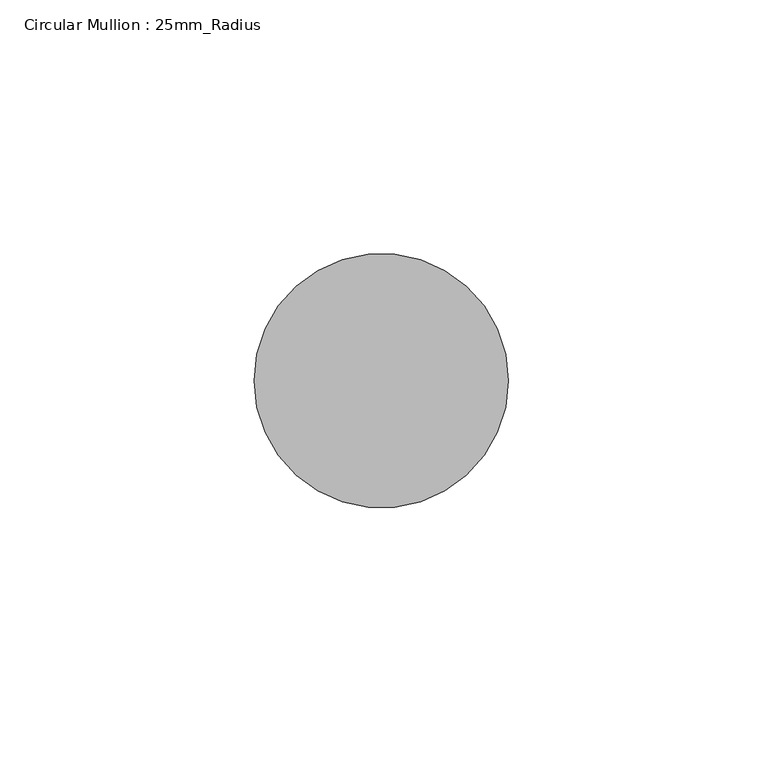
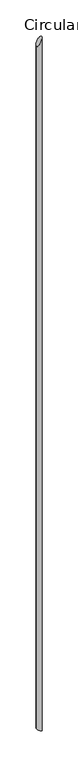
"""IFC4 building model written with IfcOpenShell, lengths in millimetres: member geometry, Circular Mullion : 25mm_Radius."""

from ifc_helpers import new_model, si_unit, frame, origin, place, context, project, spatial, ellipse_curve, source, transform, mapped, element, save
from ifc_brep_helpers import plane_surface, cylinder_surface, advanced_brep


def circular_mullion_25mm_radius_02c927fd(model_context):
    return source(origin(), model_context, "Body", "AdvancedBrep", [
        advanced_brep(
        [(-50.0, 0.0, -82.5554163), (0.0, 0.0, 0.0), (0.0, 0.0, -6824.1270927), (-50.0, 0.0, -6794.0260027)],
        [
            (0, 1, ellipse_curve(frame((-25.0, 0.0, -41.2777082), z_axis=(0.8553520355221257, 0.0, -0.5180471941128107), x_axis=(0.5180471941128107, 0.0, 0.8553520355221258)), 48.2581515, 25.0)),
            (1, 2),
            (2, 3, ellipse_curve(frame((-25.0, 0.0, -6809.0765477), z_axis=(0.5157688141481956, 0.0, 0.8567278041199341), x_axis=(-0.8567278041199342, 0.0, 0.5157688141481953)), 29.1807968, 25.0)),
            (3, 0),
            (1, 0, ellipse_curve(frame((-25.0, 0.0, -41.2777082), z_axis=(0.8553520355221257, 0.0, -0.5180471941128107), x_axis=(0.5180471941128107, 0.0, 0.8553520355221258)), 48.2581515, 25.0)),
            (3, 2, ellipse_curve(frame((-25.0, 0.0, -6809.0765477), z_axis=(0.5157688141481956, 0.0, 0.8567278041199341), x_axis=(-0.8567278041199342, 0.0, 0.5157688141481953)), 29.1807968, 25.0)),
        ],
        [
            cylinder_surface(frame((-25.0, 0.0, 0.0), z_axis=(0.0, 0.0, 1.0), x_axis=(1.0, 0.0, 0.0)), 25.0),
            plane_surface(frame((0.0, -304.8, 0.0), z_axis=(-0.8553520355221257, 0.0, 0.5180471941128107), x_axis=(-0.5180471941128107, 0.0, -0.8553520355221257))),
            plane_surface(frame((0.0, -304.8, -6824.1270927), z_axis=(-0.5157688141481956, 0.0, -0.8567278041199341), x_axis=(-0.8567278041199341, 0.0, 0.5157688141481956))),
        ],
        [
            (0, [[1, 2, 3, 4]]),
            (0, [[5, -4, 6, -2]]),
            (1, [[-1, -5]]),
            (2, [[-6, -3]]),
        ],
    ),
    ])


if __name__ == "__main__":
    model = new_model("IFC4")
    model_context = context("Model", 3, world=origin())
    ifc_project = project(units=[si_unit("LENGTHUNIT", "METRE", prefix="MILLI")], contexts=[model_context])
    site = spatial("IfcSite", under=ifc_project)
    building = spatial("IfcBuilding", under=site)
    placement = place(None, origin())
    circular_mullion_25mm_radius_shape = circular_mullion_25mm_radius_02c927fd(model_context)
    element("IfcMember", 1, ObjectType="Circular Mullion : 25mm_Radius", at=placement, inside=building, context=model_context, shape_type="MappedRepresentation", body=[
        mapped(circular_mullion_25mm_radius_shape, transform((0.0, 0.0, 0.0), x_axis=(1.0, 0.0, 0.0), y_axis=(0.0, 1.0, 0.0), z_axis=(0.0, 0.0, 1.0))),
    ])
    save(model, "model.ifc")
